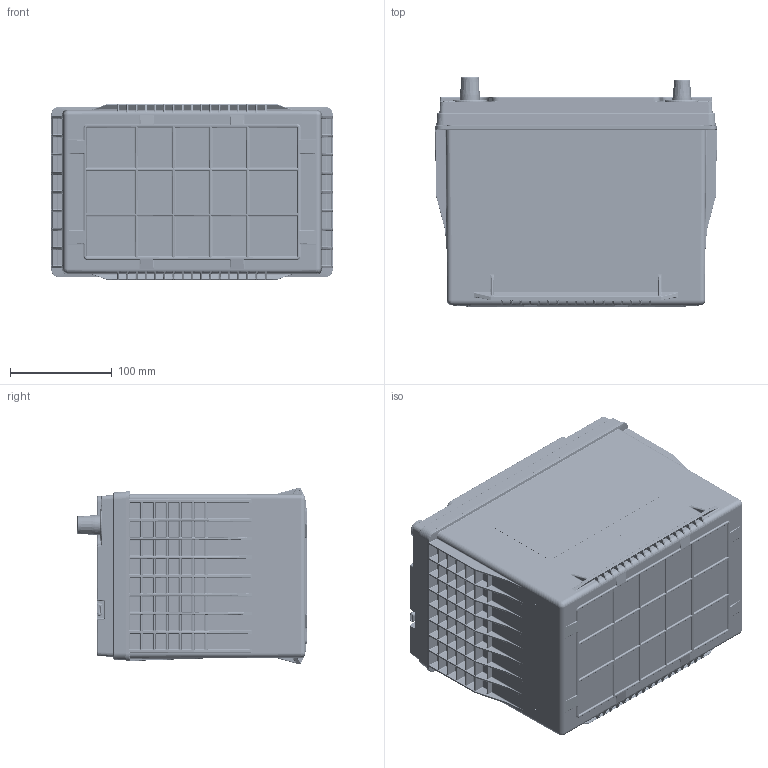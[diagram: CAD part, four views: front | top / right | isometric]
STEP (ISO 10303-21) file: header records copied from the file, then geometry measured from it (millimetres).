
FILE_DESCRIPTION (( 'STEP AP203' ), '1' );
FILE_NAME ('ODX-G24.STEP', '2024-09-17T18:10:21', ( '' ), ( '' ), 'SwSTEP 2.0', 'SolidWorks 2023', '' );
FILE_SCHEMA (( 'CONFIG_CONTROL_DESIGN' ));
Products named in the file (1): ODX-G24
Bounding box: 276 x 224.93 x 171.96 mm (x, y, z)
Volume: 1520875.9 mm3; surface area: 1125177 mm2
Topology: 21 solids, 21 shells, 11816 faces, 27991 edges, 15261 vertices
Faces by surface type: cylinder 4623, bspline 3082, plane 2294, sphere 1113, torus 382, cone 322
Full cylindrical faces by diameter (mm): 6.35 x2, 6.777 x2, 10.084 x2, 10.312 x2, 11.654 x2, 11.659 x2, 12.573 x2, 13.716 x2, 14.275 x4, 15.24 x2, 15.875 x2, 16.154 x2, 19.329 x2, 20.625 x2, 25.4 x4, 28.575 x2
Entity records: 421754 total; most frequent: CARTESIAN_POINT 186626, ORIENTED_EDGE 53348, DIRECTION 44919, EDGE_CURVE 26674, AXIS2_PLACEMENT_3D 17270, VERTEX_POINT 15134, EDGE_LOOP 12160, FACE_OUTER_BOUND 11906
